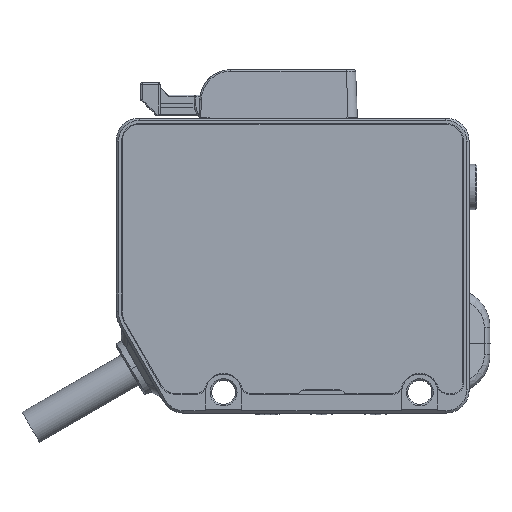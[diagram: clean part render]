
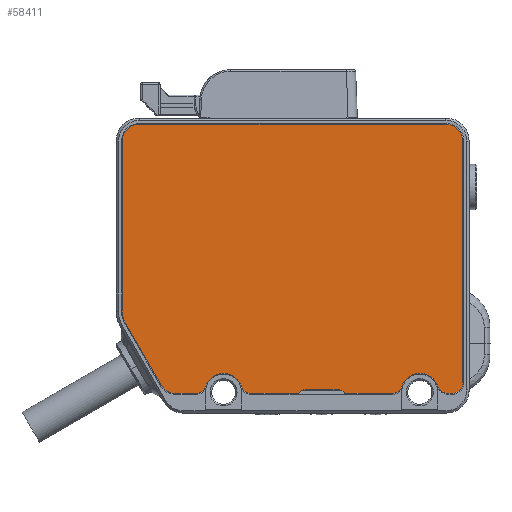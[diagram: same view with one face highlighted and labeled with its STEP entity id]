
A CAD part, left-side view. The second image highlights one B-rep face of the part: STEP entity #58411.
In plain terms, the highlighted planar face has unit normal (-1, 0, 0).
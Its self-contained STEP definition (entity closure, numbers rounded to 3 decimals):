
#57610=DIRECTION('',(0.,-1.,0.));
#57611=VECTOR('',#57610,6.167);
#57612=CARTESIAN_POINT('',(-13.999,-37.752,-14.003));
#57613=LINE('',#57612,#57611);
#57624=CARTESIAN_POINT('',(-13.999,-37.752,-12.753));
#57625=DIRECTION('',(1.,0.,0.));
#57626=DIRECTION('',(0.,0.,-1.));
#57627=AXIS2_PLACEMENT_3D('',#57624,#57625,#57626);
#57632=CARTESIAN_POINT('',(-13.999,-34.219,-13.853));
#57633=DIRECTION('',(-1.,0.,0.));
#57634=DIRECTION('',(0.,-0.955,0.297));
#57635=AXIS2_PLACEMENT_3D('',#57632,#57633,#57634);
#57640=CARTESIAN_POINT('',(-13.999,-34.219,-13.853));
#57641=DIRECTION('',(-1.,0.,0.));
#57642=DIRECTION('',(0.,0.,1.));
#57643=AXIS2_PLACEMENT_3D('',#57640,#57641,#57642);
#57648=CARTESIAN_POINT('',(-13.999,-30.686,-12.753));
#57649=DIRECTION('',(1.,0.,0.));
#57650=DIRECTION('',(0.,-0.955,-0.297));
#57651=AXIS2_PLACEMENT_3D('',#57648,#57649,#57650);
#57656=CARTESIAN_POINT('',(-13.999,-27.925,
-12.003));
#57657=DIRECTION('',(1.,0.,0.));
#57658=DIRECTION('',(0.,0.,-1.));
#57659=AXIS2_PLACEMENT_3D('',#57656,#57657,#57658);
#57664=DIRECTION('',(0.,0.5,0.866));
#57665=VECTOR('',#57664,9.294);
#57666=CARTESIAN_POINT('',(-13.999,-26.193,
-13.003));
#57667=LINE('',#57666,#57665);
#57671=CARTESIAN_POINT('',(-13.999,-24.36,
-3.329));
#57672=DIRECTION('',(1.,0.,0.));
#57673=DIRECTION('',(0.,0.866,-0.5));
#57674=AXIS2_PLACEMENT_3D('',#57671,#57672,#57673);
#57679=CARTESIAN_POINT('',(-13.999,-23.36,18.597));
#57680=DIRECTION('',(1.,0.,0.));
#57681=DIRECTION('',(0.,1.,0.));
#57682=AXIS2_PLACEMENT_3D('',#57679,#57680,#57681);
#57687=CARTESIAN_POINT('',(-13.999,-62.96,18.597));
#57688=DIRECTION('',(1.,0.,0.));
#57689=DIRECTION('',(0.,0.,1.));
#57690=AXIS2_PLACEMENT_3D('',#57687,#57688,#57689);
#57695=CARTESIAN_POINT('',(-13.999,-63.81,-12.603));
#57696=DIRECTION('',(1.,0.,0.));
#57697=DIRECTION('',(0.,-1.,0.));
#57698=AXIS2_PLACEMENT_3D('',#57695,#57696,#57697);
#57703=DIRECTION('',(0.,1.,0.));
#57704=VECTOR('',#57703,0.55);
#57705=CARTESIAN_POINT('',(-13.999,-63.81,-14.003));
#57706=LINE('',#57705,#57704);
#57710=CARTESIAN_POINT('',(-13.999,-63.26,-12.603));
#57711=DIRECTION('',(1.,0.,0.));
#57712=DIRECTION('',(0.,0.,-1.));
#57713=AXIS2_PLACEMENT_3D('',#57710,#57711,#57712);
#57718=CARTESIAN_POINT('',(-13.999,-59.619,-13.853));
#57719=DIRECTION('',(-1.,0.,0.));
#57720=DIRECTION('',(0.,-0.946,0.325));
#57721=AXIS2_PLACEMENT_3D('',#57718,#57719,#57720);
#57726=CARTESIAN_POINT('',(-13.999,-59.619,-13.853));
#57727=DIRECTION('',(-1.,0.,0.));
#57728=DIRECTION('',(0.,0.,1.));
#57729=AXIS2_PLACEMENT_3D('',#57726,#57727,#57728);
#57734=CARTESIAN_POINT('',(-13.999,-56.086,-12.753));
#57735=DIRECTION('',(1.,0.,0.));
#57736=DIRECTION('',(0.,-0.955,-0.297));
#57737=AXIS2_PLACEMENT_3D('',#57734,#57735,#57736);
#57742=CARTESIAN_POINT('',(-13.999,-49.053,-14.503));
#57743=DIRECTION('',(-1.,0.,0.));
#57744=DIRECTION('',(0.,-0.866,0.5));
#57745=AXIS2_PLACEMENT_3D('',#57742,#57743,#57744);
#57750=CARTESIAN_POINT('',(-13.999,-44.785,-14.503));
#57751=DIRECTION('',(-1.,0.,0.));
#57752=DIRECTION('',(0.,0.,1.));
#57753=AXIS2_PLACEMENT_3D('',#57750,#57751,#57752);
#57786=DIRECTION('',(0.,-1.,0.));
#57787=VECTOR('',#57786,2.762);
#57788=CARTESIAN_POINT('',(-13.999,-27.925,
-14.003));
#57789=LINE('',#57788,#57787);
#57821=DIRECTION('',(0.,0.,-1.));
#57822=VECTOR('',#57821,21.926);
#57823=CARTESIAN_POINT('',(-13.999,-21.11,18.597));
#57824=LINE('',#57823,#57822);
#57856=DIRECTION('',(0.,1.,0.));
#57857=VECTOR('',#57856,39.6);
#57858=CARTESIAN_POINT('',(-13.999,-62.96,20.847));
#57859=LINE('',#57858,#57857);
#57884=DIRECTION('',(0.,0.,1.));
#57885=VECTOR('',#57884,31.2);
#57886=CARTESIAN_POINT('',(-13.999,-65.21,-12.603));
#57887=LINE('',#57886,#57885);
#57947=DIRECTION('',(0.,-1.,0.));
#57948=VECTOR('',#57947,6.167);
#57949=CARTESIAN_POINT('',(-13.999,-49.919,-14.003));
#57950=LINE('',#57949,#57948);
#57975=DIRECTION('',(0.,-1.,0.));
#57976=VECTOR('',#57975,4.268);
#57977=CARTESIAN_POINT('',(-13.999,-44.785,-13.503));
#57978=LINE('',#57977,#57976);
#58204=CARTESIAN_POINT('',(-13.999,-37.752,-14.003));
#58205=CARTESIAN_POINT('',(-13.999,-43.919,-14.003));
#58206=VERTEX_POINT('',#58204);
#58207=VERTEX_POINT('',#58205);
#58208=CARTESIAN_POINT('',(-13.999,-36.558,-13.125));
#58209=VERTEX_POINT('',#58208);
#58210=CARTESIAN_POINT('',(-13.999,-34.219,-11.403));
#58211=VERTEX_POINT('',#58210);
#58212=CARTESIAN_POINT('',(-13.999,-31.88,-13.125));
#58213=VERTEX_POINT('',#58212);
#58214=CARTESIAN_POINT('',(-13.999,-30.686,-14.003));
#58215=VERTEX_POINT('',#58214);
#58216=CARTESIAN_POINT('',(-13.999,-27.925,
-14.003));
#58217=VERTEX_POINT('',#58216);
#58218=CARTESIAN_POINT('',(-13.999,-26.193,
-13.003));
#58219=VERTEX_POINT('',#58218);
#58220=CARTESIAN_POINT('',(-13.999,-21.545,
-4.954));
#58221=VERTEX_POINT('',#58220);
#58222=CARTESIAN_POINT('',(-13.999,-21.11,
-3.329));
#58223=VERTEX_POINT('',#58222);
#58224=CARTESIAN_POINT('',(-13.999,-21.11,18.597));
#58225=VERTEX_POINT('',#58224);
#58226=CARTESIAN_POINT('',(-13.999,-23.36,20.847));
#58227=VERTEX_POINT('',#58226);
#58228=CARTESIAN_POINT('',(-13.999,-62.96,20.847));
#58229=VERTEX_POINT('',#58228);
#58230=CARTESIAN_POINT('',(-13.999,-65.21,18.597));
#58231=VERTEX_POINT('',#58230);
#58232=CARTESIAN_POINT('',(-13.999,-65.21,-12.603));
#58233=VERTEX_POINT('',#58232);
#58234=CARTESIAN_POINT('',(-13.999,-63.81,-14.003));
#58235=VERTEX_POINT('',#58234);
#58236=CARTESIAN_POINT('',(-13.999,-63.26,-14.003));
#58237=VERTEX_POINT('',#58236);
#58238=CARTESIAN_POINT('',(-13.999,-61.936,-13.058));
#58239=VERTEX_POINT('',#58238);
#58240=CARTESIAN_POINT('',(-13.999,-59.619,-11.403));
#58241=VERTEX_POINT('',#58240);
#58242=CARTESIAN_POINT('',(-13.999,-57.28,-13.125));
#58243=VERTEX_POINT('',#58242);
#58244=CARTESIAN_POINT('',(-13.999,-56.086,-14.003));
#58245=VERTEX_POINT('',#58244);
#58246=CARTESIAN_POINT('',(-13.999,-49.919,-14.003));
#58247=VERTEX_POINT('',#58246);
#58248=CARTESIAN_POINT('',(-13.999,-49.053,-13.503));
#58249=VERTEX_POINT('',#58248);
#58250=CARTESIAN_POINT('',(-13.999,-44.785,-13.503));
#58251=VERTEX_POINT('',#58250);
#58357=CARTESIAN_POINT('',(-13.999,-23.11,-8.171));
#58358=DIRECTION('',(-1.,0.,0.));
#58359=DIRECTION('',(0.,0.,1.));
#58360=AXIS2_PLACEMENT_3D('',#58357,#58358,#58359);
#58361=PLANE('',#58360);
#58362=ORIENTED_EDGE('',*,*,#58347,.F.);
#58364=ORIENTED_EDGE('',*,*,#58363,.T.);
#58366=ORIENTED_EDGE('',*,*,#58365,.T.);
#58368=ORIENTED_EDGE('',*,*,#58367,.T.);
#58370=ORIENTED_EDGE('',*,*,#58369,.T.);
#58372=ORIENTED_EDGE('',*,*,#58371,.F.);
#58374=ORIENTED_EDGE('',*,*,#58373,.T.);
#58376=ORIENTED_EDGE('',*,*,#58375,.T.);
#58378=ORIENTED_EDGE('',*,*,#58377,.T.);
#58380=ORIENTED_EDGE('',*,*,#58379,.F.);
#58382=ORIENTED_EDGE('',*,*,#58381,.T.);
#58384=ORIENTED_EDGE('',*,*,#58383,.F.);
#58386=ORIENTED_EDGE('',*,*,#58385,.T.);
#58388=ORIENTED_EDGE('',*,*,#58387,.F.);
#58390=ORIENTED_EDGE('',*,*,#58389,.T.);
#58392=ORIENTED_EDGE('',*,*,#58391,.T.);
#58394=ORIENTED_EDGE('',*,*,#58393,.T.);
#58396=ORIENTED_EDGE('',*,*,#58395,.T.);
#58398=ORIENTED_EDGE('',*,*,#58397,.T.);
#58400=ORIENTED_EDGE('',*,*,#58399,.T.);
#58402=ORIENTED_EDGE('',*,*,#58401,.F.);
#58404=ORIENTED_EDGE('',*,*,#58403,.T.);
#58406=ORIENTED_EDGE('',*,*,#58405,.F.);
#58408=ORIENTED_EDGE('',*,*,#58407,.T.);
#58409=EDGE_LOOP('',(#58362,#58364,#58366,#58368,#58370,#58372,#58374,#58376,
#58378,#58380,#58382,#58384,#58386,#58388,#58390,#58392,#58394,#58396,#58398,
#58400,#58402,#58404,#58406,#58408));
#58410=FACE_OUTER_BOUND('',#58409,.F.);
#57628=CIRCLE('',#57627,1.25);
#57636=CIRCLE('',#57635,2.45);
#57644=CIRCLE('',#57643,2.45);
#57652=CIRCLE('',#57651,1.25);
#57660=CIRCLE('',#57659,2.);
#57675=CIRCLE('',#57674,3.25);
#57683=CIRCLE('',#57682,2.25);
#57691=CIRCLE('',#57690,2.25);
#57699=CIRCLE('',#57698,1.4);
#57714=CIRCLE('',#57713,1.4);
#57722=CIRCLE('',#57721,2.45);
#57730=CIRCLE('',#57729,2.45);
#57738=CIRCLE('',#57737,1.25);
#57746=CIRCLE('',#57745,1.);
#57754=CIRCLE('',#57753,1.);
#58347=EDGE_CURVE('',#58206,#58207,#57613,.T.);
#58363=EDGE_CURVE('',#58206,#58209,#57628,.T.);
#58365=EDGE_CURVE('',#58209,#58211,#57636,.T.);
#58367=EDGE_CURVE('',#58211,#58213,#57644,.T.);
#58369=EDGE_CURVE('',#58213,#58215,#57652,.T.);
#58371=EDGE_CURVE('',#58217,#58215,#57789,.T.);
#58373=EDGE_CURVE('',#58217,#58219,#57660,.T.);
#58375=EDGE_CURVE('',#58219,#58221,#57667,.T.);
#58377=EDGE_CURVE('',#58221,#58223,#57675,.T.);
#58379=EDGE_CURVE('',#58225,#58223,#57824,.T.);
#58381=EDGE_CURVE('',#58225,#58227,#57683,.T.);
#58383=EDGE_CURVE('',#58229,#58227,#57859,.T.);
#58385=EDGE_CURVE('',#58229,#58231,#57691,.T.);
#58387=EDGE_CURVE('',#58233,#58231,#57887,.T.);
#58389=EDGE_CURVE('',#58233,#58235,#57699,.T.);
#58391=EDGE_CURVE('',#58235,#58237,#57706,.T.);
#58393=EDGE_CURVE('',#58237,#58239,#57714,.T.);
#58395=EDGE_CURVE('',#58239,#58241,#57722,.T.);
#58397=EDGE_CURVE('',#58241,#58243,#57730,.T.);
#58399=EDGE_CURVE('',#58243,#58245,#57738,.T.);
#58401=EDGE_CURVE('',#58247,#58245,#57950,.T.);
#58403=EDGE_CURVE('',#58247,#58249,#57746,.T.);
#58405=EDGE_CURVE('',#58251,#58249,#57978,.T.);
#58407=EDGE_CURVE('',#58251,#58207,#57754,.T.);
#58411=ADVANCED_FACE('',(#58410),#58361,.T.);
